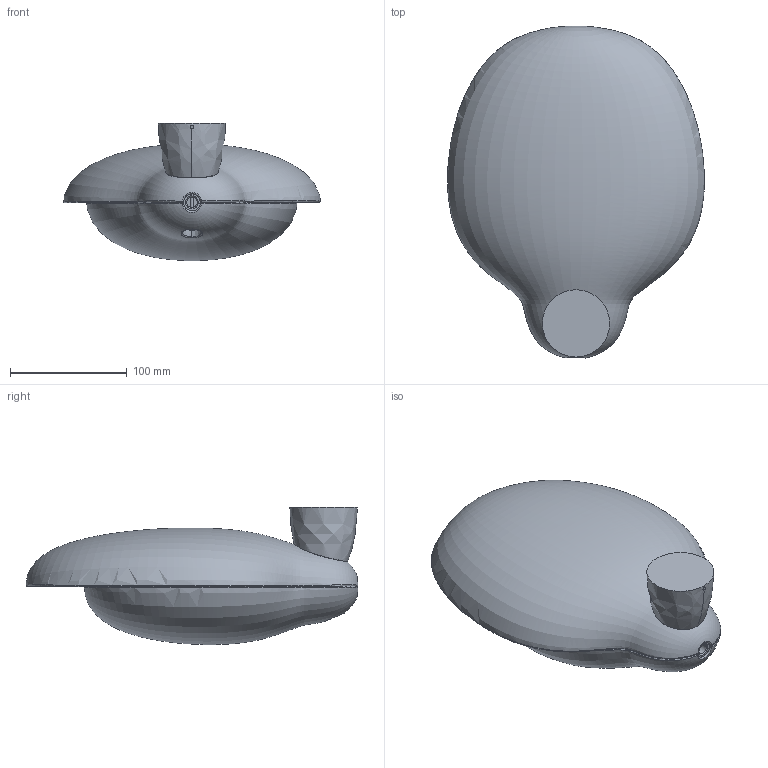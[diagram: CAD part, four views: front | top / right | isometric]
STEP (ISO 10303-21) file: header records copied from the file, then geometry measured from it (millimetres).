
FILE_DESCRIPTION (( 'STEP AP214' ), '1' );
FILE_NAME ('Petal Wall Light - Large Lightweight.STEP', '2024-02-16T05:45:41', ( '' ), ( '' ), 'SwSTEP 2.0', 'SolidWorks 2017', '' );
FILE_SCHEMA (( 'AUTOMOTIVE_DESIGN' ));
Length unit declared in the file: millimetre
Products named in the file (1): Petal Wall Light - Large Lightweight
Bounding box: 219.73 x 284.12 x 117.37 mm (x, y, z)
Volume: 691530.9 mm3; surface area: 275353.7 mm2
Topology: 5 solids, 10 shells, 209 faces, 487 edges, 294 vertices
Faces by surface type: bspline 81, cylinder 44, plane 36, cone 18, sphere 16, torus 14
Entity records: 83729 total; most frequent: CARTESIAN_POINT 77374, ORIENTED_EDGE 954, DIRECTION 730, EDGE_CURVE 477, AXIS2_PLACEMENT_3D 325, VERTEX_POINT 294, EDGE_LOOP 223, ADVANCED_FACE 209
